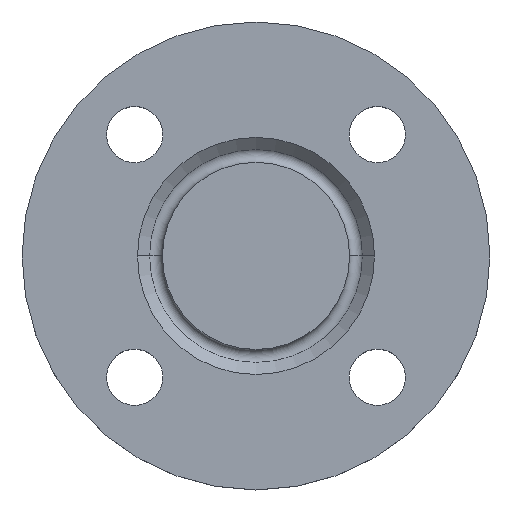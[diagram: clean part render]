
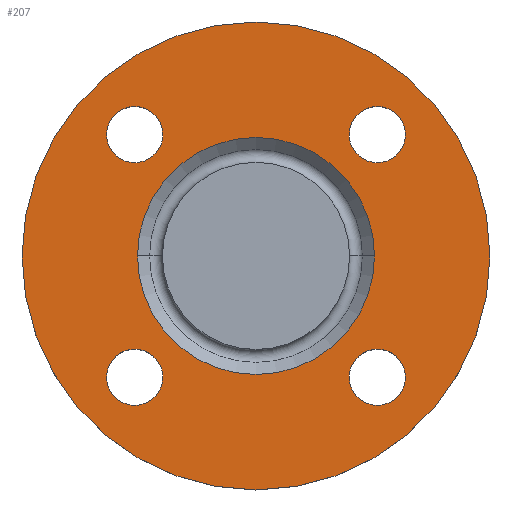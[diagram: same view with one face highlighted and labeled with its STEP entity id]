
A CAD part, top view. The second image highlights one B-rep face of the part: STEP entity #207.
In plain terms, the highlighted planar face has unit normal (0, 0, 1).
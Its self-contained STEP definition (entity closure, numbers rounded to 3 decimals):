
#1 = CIRCLE ( 'NONE', #437, 9. ) ;
#5 = AXIS2_PLACEMENT_3D ( 'NONE', #488, #489, #490 ) ;
#6 = CIRCLE ( 'NONE', #5, 9. ) ;
#25 = CIRCLE ( 'NONE', #312, 9. ) ;
#30 = CARTESIAN_POINT ( 'NONE',  ( 0., 0., -2. ) ) ;
#34 = DIRECTION ( 'NONE',  ( 0., 0., -1. ) ) ;
#81 = CARTESIAN_POINT ( 'NONE',  ( 0., 0., -2. ) ) ;
#82 = DIRECTION ( 'NONE',  ( 0., 0., -1. ) ) ;
#83 = DIRECTION ( 'NONE',  ( -1., 0., 0. ) ) ;
#88 = CARTESIAN_POINT ( 'NONE',  ( 38.891, -38.891, -2. ) ) ;
#89 = CIRCLE ( 'NONE', #559, 38. ) ;
#90 = DIRECTION ( 'NONE',  ( 0., 0., -1. ) ) ;
#91 = DIRECTION ( 'NONE',  ( 1., 0., 0. ) ) ;
#97 = AXIS2_PLACEMENT_3D ( 'NONE', #598, #599, #601 ) ;
#98 = EDGE_CURVE ( 'NONE', #411, #115, #6, .T. ) ;
#100 = CARTESIAN_POINT ( 'NONE',  ( -47.891, 38.891, -2. ) ) ;
#103 = AXIS2_PLACEMENT_3D ( 'NONE', #564, #565, #566 ) ;
#107 = CIRCLE ( 'NONE', #321, 9. ) ;
#115 = VERTEX_POINT ( 'NONE', #504 ) ;
#117 = VERTEX_POINT ( 'NONE', #506 ) ;
#121 = VERTEX_POINT ( 'NONE', #512 ) ;
#131 = CIRCLE ( 'NONE', #311, 9. ) ;
#140 = EDGE_CURVE ( 'NONE', #264, #195, #107, .T. ) ;
#142 = AXIS2_PLACEMENT_3D ( 'NONE', #553, #554, #555 ) ;
#149 = VERTEX_POINT ( 'NONE', #526 ) ;
#150 = CARTESIAN_POINT ( 'NONE',  ( 29.891, -38.891, -2. ) ) ;
#170 = CARTESIAN_POINT ( 'NONE',  ( -29.891, 38.891, -2. ) ) ;
#172 = CARTESIAN_POINT ( 'NONE',  ( -29.891, -38.891, -2. ) ) ;
#177 = VERTEX_POINT ( 'NONE', #530 ) ;
#195 = VERTEX_POINT ( 'NONE', #534 ) ;
#197 = CIRCLE ( 'NONE', #406, 75. ) ;
#207 = ADVANCED_FACE ( 'NONE', ( #546, #547, #548, #549, #550, #551 ), #552, .T. ) ;
#213 = EDGE_CURVE ( 'NONE', #371, #400, #131, .T. ) ;
#215 = EDGE_CURVE ( 'NONE', #400, #371, #320, .T. ) ;
#228 = CARTESIAN_POINT ( 'NONE',  ( 0., 0., -2. ) ) ;
#229 = DIRECTION ( 'NONE',  ( 0., 0., -1. ) ) ;
#230 = DIRECTION ( 'NONE',  ( -1., 0., 0. ) ) ;
#237 = EDGE_CURVE ( 'NONE', #177, #149, #359, .T. ) ;
#248 = CIRCLE ( 'NONE', #97, 9. ) ;
#250 = DIRECTION ( 'NONE',  ( -1., 0., 0. ) ) ;
#254 = AXIS2_PLACEMENT_3D ( 'NONE', #228, #229, #230 ) ;
#264 = VERTEX_POINT ( 'NONE', #590 ) ;
#276 = CIRCLE ( 'NONE', #254, 38. ) ;
#280 = ORIENTED_EDGE ( 'NONE', *, *, #341, .T. ) ;
#281 = ORIENTED_EDGE ( 'NONE', *, *, #287, .T. ) ;
#282 = ORIENTED_EDGE ( 'NONE', *, *, #98, .T. ) ;
#284 = ORIENTED_EDGE ( 'NONE', *, *, #330, .T. ) ;
#285 = ORIENTED_EDGE ( 'NONE', *, *, #215, .T. ) ;
#286 = ORIENTED_EDGE ( 'NONE', *, *, #213, .T. ) ;
#287 = EDGE_CURVE ( 'NONE', #385, #117, #25, .T. ) ;
#288 = ORIENTED_EDGE ( 'NONE', *, *, #140, .T. ) ;
#290 = ORIENTED_EDGE ( 'NONE', *, *, #307, .T. ) ;
#291 = ORIENTED_EDGE ( 'NONE', *, *, #600, .T. ) ;
#292 = ORIENTED_EDGE ( 'NONE', *, *, #535, .T. ) ;
#294 = ORIENTED_EDGE ( 'NONE', *, *, #338, .F. ) ;
#295 = ORIENTED_EDGE ( 'NONE', *, *, #237, .F. ) ;
#302 = CIRCLE ( 'NONE', #472, 9. ) ;
#304 = VERTEX_POINT ( 'NONE', #597 ) ;
#307 = EDGE_CURVE ( 'NONE', #195, #264, #248, .T. ) ;
#311 = AXIS2_PLACEMENT_3D ( 'NONE', #556, #557, #560 ) ;
#312 = AXIS2_PLACEMENT_3D ( 'NONE', #594, #595, #596 ) ;
#320 = CIRCLE ( 'NONE', #603, 9. ) ;
#321 = AXIS2_PLACEMENT_3D ( 'NONE', #522, #523, #524 ) ;
#330 = EDGE_CURVE ( 'NONE', #115, #411, #1, .T. ) ;
#338 = EDGE_CURVE ( 'NONE', #149, #177, #197, .T. ) ;
#341 = EDGE_CURVE ( 'NONE', #117, #385, #302, .T. ) ;
#359 = CIRCLE ( 'NONE', #103, 75. ) ;
#371 = VERTEX_POINT ( 'NONE', #100 ) ;
#379 = EDGE_LOOP ( 'NONE', ( #288, #290 ) ) ;
#385 = VERTEX_POINT ( 'NONE', #150 ) ;
#388 = EDGE_LOOP ( 'NONE', ( #294, #295 ) ) ;
#400 = VERTEX_POINT ( 'NONE', #170 ) ;
#401 = EDGE_LOOP ( 'NONE', ( #285, #286 ) ) ;
#404 = EDGE_LOOP ( 'NONE', ( #282, #284 ) ) ;
#406 = AXIS2_PLACEMENT_3D ( 'NONE', #81, #82, #83 ) ;
#407 = EDGE_LOOP ( 'NONE', ( #291, #292 ) ) ;
#411 = VERTEX_POINT ( 'NONE', #172 ) ;
#413 = EDGE_LOOP ( 'NONE', ( #280, #281 ) ) ;
#437 = AXIS2_PLACEMENT_3D ( 'NONE', #615, #616, #617 ) ;
#472 = AXIS2_PLACEMENT_3D ( 'NONE', #88, #90, #91 ) ;
#488 = CARTESIAN_POINT ( 'NONE',  ( -38.891, -38.891, -2. ) ) ;
#489 = DIRECTION ( 'NONE',  ( 0., 0., -1. ) ) ;
#490 = DIRECTION ( 'NONE',  ( 1., 0., 0. ) ) ;
#504 = CARTESIAN_POINT ( 'NONE',  ( -47.891, -38.891, -2. ) ) ;
#506 = CARTESIAN_POINT ( 'NONE',  ( 47.891, -38.891, -2. ) ) ;
#512 = CARTESIAN_POINT ( 'NONE',  ( 38., 0., -2. ) ) ;
#522 = CARTESIAN_POINT ( 'NONE',  ( 38.891, 38.891, -2. ) ) ;
#523 = DIRECTION ( 'NONE',  ( 0., 0., -1. ) ) ;
#524 = DIRECTION ( 'NONE',  ( 1., 0., 0. ) ) ;
#526 = CARTESIAN_POINT ( 'NONE',  ( 75., 0., -2. ) ) ;
#530 = CARTESIAN_POINT ( 'NONE',  ( -75., 0., -2. ) ) ;
#534 = CARTESIAN_POINT ( 'NONE',  ( 29.891, 38.891, -2. ) ) ;
#535 = EDGE_CURVE ( 'NONE', #304, #121, #276, .T. ) ;
#546 = FACE_BOUND ( 'NONE', #413, .T. ) ;
#547 = FACE_BOUND ( 'NONE', #404, .T. ) ;
#548 = FACE_BOUND ( 'NONE', #401, .T. ) ;
#549 = FACE_BOUND ( 'NONE', #379, .T. ) ;
#550 = FACE_BOUND ( 'NONE', #407, .T. ) ;
#551 = FACE_OUTER_BOUND ( 'NONE', #388, .T. ) ;
#552 = PLANE ( 'NONE',  #142 ) ;
#553 = CARTESIAN_POINT ( 'NONE',  ( 75., 0., -2. ) ) ;
#554 = DIRECTION ( 'NONE',  ( 0., 0., 1. ) ) ;
#555 = DIRECTION ( 'NONE',  ( 1., 0., 0. ) ) ;
#556 = CARTESIAN_POINT ( 'NONE',  ( -38.891, 38.891, -2. ) ) ;
#557 = DIRECTION ( 'NONE',  ( 0., 0., -1. ) ) ;
#559 = AXIS2_PLACEMENT_3D ( 'NONE', #30, #34, #250 ) ;
#560 = DIRECTION ( 'NONE',  ( 1., 0., 0. ) ) ;
#561 = CARTESIAN_POINT ( 'NONE',  ( -38.891, 38.891, -2. ) ) ;
#562 = DIRECTION ( 'NONE',  ( 0., 0., -1. ) ) ;
#563 = DIRECTION ( 'NONE',  ( 1., 0., 0. ) ) ;
#564 = CARTESIAN_POINT ( 'NONE',  ( 0., 0., -2. ) ) ;
#565 = DIRECTION ( 'NONE',  ( 0., 0., -1. ) ) ;
#566 = DIRECTION ( 'NONE',  ( -1., 0., 0. ) ) ;
#590 = CARTESIAN_POINT ( 'NONE',  ( 47.891, 38.891, -2. ) ) ;
#594 = CARTESIAN_POINT ( 'NONE',  ( 38.891, -38.891, -2. ) ) ;
#595 = DIRECTION ( 'NONE',  ( 0., 0., -1. ) ) ;
#596 = DIRECTION ( 'NONE',  ( 1., 0., 0. ) ) ;
#597 = CARTESIAN_POINT ( 'NONE',  ( -38., 0., -2. ) ) ;
#598 = CARTESIAN_POINT ( 'NONE',  ( 38.891, 38.891, -2. ) ) ;
#599 = DIRECTION ( 'NONE',  ( 0., 0., -1. ) ) ;
#600 = EDGE_CURVE ( 'NONE', #121, #304, #89, .T. ) ;
#601 = DIRECTION ( 'NONE',  ( 1., 0., 0. ) ) ;
#603 = AXIS2_PLACEMENT_3D ( 'NONE', #561, #562, #563 ) ;
#615 = CARTESIAN_POINT ( 'NONE',  ( -38.891, -38.891, -2. ) ) ;
#616 = DIRECTION ( 'NONE',  ( 0., 0., -1. ) ) ;
#617 = DIRECTION ( 'NONE',  ( 1., 0., 0. ) ) ;
